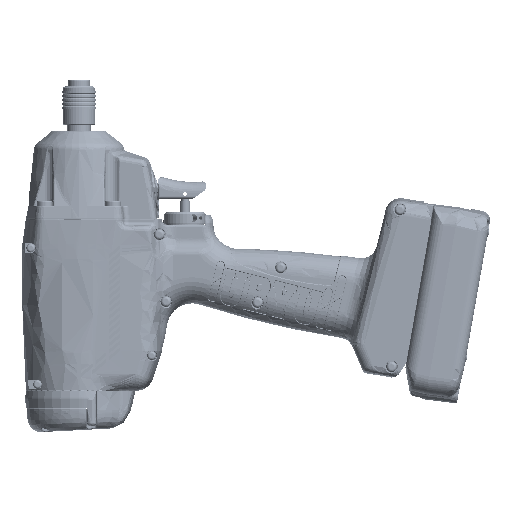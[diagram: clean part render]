
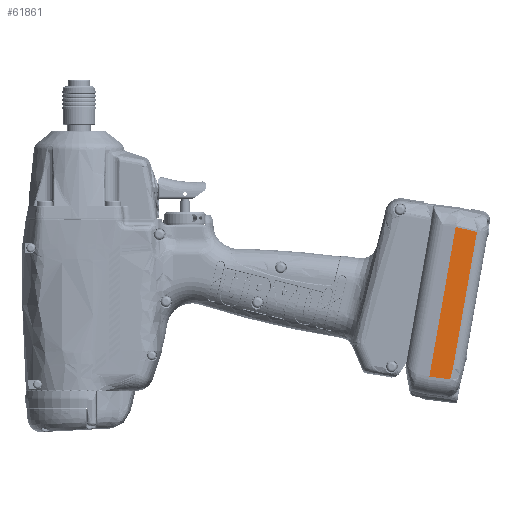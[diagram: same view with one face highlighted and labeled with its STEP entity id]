
A CAD part, left-side view. The second image highlights one B-rep face of the part: STEP entity #61861.
In plain terms, the highlighted planar face has unit normal (-0.999, -0.051, -0.009) as drawn and (-0.999, 0, -0.052) by its records, which use the part's own axes.
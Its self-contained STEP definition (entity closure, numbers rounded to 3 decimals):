
#2814 = ORIENTED_EDGE ( 'NONE', *, *, #51580, .F. ) ;
#9396 = VECTOR ( 'NONE', #197527, 1000. ) ;
#16809 = DIRECTION ( 'NONE',  ( 0., 1., 0. ) ) ;
#29917 = DIRECTION ( 'NONE',  ( 0., 1., 0. ) ) ;
#36404 = ORIENTED_EDGE ( 'NONE', *, *, #234560, .T. ) ;
#37911 = B_SPLINE_CURVE_WITH_KNOTS ( 'NONE', 3,
 ( #174130, #180131, #219831, #179260 ),
 .UNSPECIFIED., .F., .F.,
 ( 4, 4 ),
 ( 0., 1. ),
 .UNSPECIFIED. ) ;
#41614 = CARTESIAN_POINT ( 'NONE',  ( -37.835, 3.57, 2.5 ) ) ;
#50563 = CARTESIAN_POINT ( 'NONE',  ( -37.242, -87.22, -8.814 ) ) ;
#51580 = EDGE_CURVE ( 'NONE', #62864, #238089, #73462, .T. ) ;
#53000 = EDGE_CURVE ( 'NONE', #198390, #232661, #196052, .T. ) ;
#61861 = ADVANCED_FACE ( 'NONE', ( #235217 ), #93104, .T. ) ;
#62864 = VERTEX_POINT ( 'NONE', #155011 ) ;
#71130 = LINE ( 'NONE', #252981, #148199 ) ;
#73462 = LINE ( 'NONE', #50563, #224496 ) ;
#75011 = DIRECTION ( 'NONE',  ( -0.999, 0., -0.052 ) ) ;
#80808 = CARTESIAN_POINT ( 'NONE',  ( -37.268, 3.028, -8.336 ) ) ;
#93104 = PLANE ( 'NONE',  #171433 ) ;
#95747 = CARTESIAN_POINT ( 'NONE',  ( -37.835, 3.57, 2.5 ) ) ;
#102978 = ORIENTED_EDGE ( 'NONE', *, *, #195895, .F. ) ;
#133604 = CARTESIAN_POINT ( 'NONE',  ( -37.835, -35.77, 2.5 ) ) ;
#148199 = VECTOR ( 'NONE', #234046, 1000. ) ;
#155011 = CARTESIAN_POINT ( 'NONE',  ( -37.242, -74.592, -8.814 ) ) ;
#155180 = CARTESIAN_POINT ( 'NONE',  ( -37.835, -75.147, 2.5 ) ) ;
#171433 = AXIS2_PLACEMENT_3D ( 'NONE', #133604, #75011, #211955 ) ;
#174130 = CARTESIAN_POINT ( 'NONE',  ( -37.242, -2.656, -8.814 ) ) ;
#179260 = CARTESIAN_POINT ( 'NONE',  ( -37.268, 3.028, -8.336 ) ) ;
#180131 = CARTESIAN_POINT ( 'NONE',  ( -37.242, -0.748, -8.814 ) ) ;
#195895 = EDGE_CURVE ( 'NONE', #238089, #199881, #37911, .T. ) ;
#196052 = LINE ( 'NONE', #243624, #226998 ) ;
#197527 = DIRECTION ( 'NONE',  ( 0.052, -0.05, -0.997 ) ) ;
#198390 = VERTEX_POINT ( 'NONE', #155180 ) ;
#199881 = VERTEX_POINT ( 'NONE', #80808 ) ;
#208372 = EDGE_LOOP ( 'NONE', ( #220613, #230122, #102978, #2814, #36404 ) ) ;
#209916 = CARTESIAN_POINT ( 'NONE',  ( -37.242, -2.656, -8.814 ) ) ;
#211955 = DIRECTION ( 'NONE',  ( -0.052, 0., 0.999 ) ) ;
#219831 = CARTESIAN_POINT ( 'NONE',  ( -37.251, 1.147, -8.655 ) ) ;
#220613 = ORIENTED_EDGE ( 'NONE', *, *, #53000, .T. ) ;
#224496 = VECTOR ( 'NONE', #16809, 1000. ) ;
#226998 = VECTOR ( 'NONE', #29917, 1000. ) ;
#230122 = ORIENTED_EDGE ( 'NONE', *, *, #233836, .T. ) ;
#232661 = VERTEX_POINT ( 'NONE', #95747 ) ;
#233836 = EDGE_CURVE ( 'NONE', #232661, #199881, #237685, .T. ) ;
#234046 = DIRECTION ( 'NONE',  ( -0.052, -0.049, 0.997 ) ) ;
#234560 = EDGE_CURVE ( 'NONE', #62864, #198390, #71130, .T. ) ;
#235217 = FACE_OUTER_BOUND ( 'NONE', #208372, .T. ) ;
#237685 = LINE ( 'NONE', #41614, #9396 ) ;
#238089 = VERTEX_POINT ( 'NONE', #209916 ) ;
#243624 = CARTESIAN_POINT ( 'NONE',  ( -37.835, -35.77, 2.5 ) ) ;
#252981 = CARTESIAN_POINT ( 'NONE',  ( -37.242, -74.592, -8.814 ) ) ;
